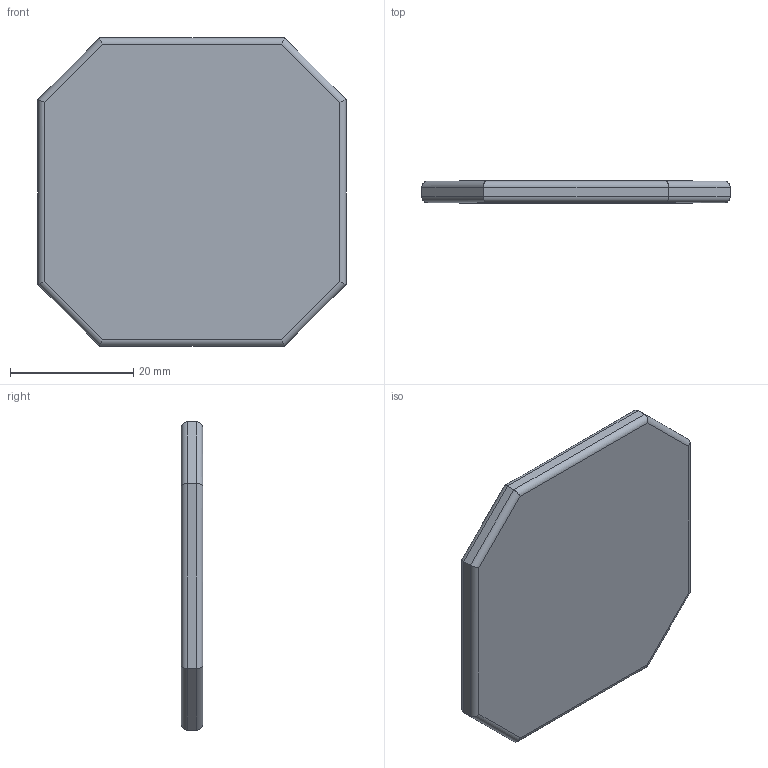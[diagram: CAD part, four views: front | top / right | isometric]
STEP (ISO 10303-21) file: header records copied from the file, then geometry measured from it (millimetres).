
FILE_DESCRIPTION(/* description */ (''),/* implementation_level */ '2;1');
FILE_NAME(/* name */ '//eli-nas/backup/3D Print/Werewolf Tokens/15.step',/* time_stamp */ '2022-02-09T18:07:59-06:00',/* author */ (''),/* organization */ (''),/* preprocessor_version */ 'ST-DEVELOPER v18.1',/* originating_system */ 'Autodesk Translation Framework v10.13.0.1454',/* authorisation */ '');
FILE_SCHEMA (('AUTOMOTIVE_DESIGN { 1 0 10303 214 3 1 1 }'));
Length unit declared in the file: millimetre
Products named in the file (1): Untitled
Bounding box: 50 x 3.5 x 50 mm (x, y, z)
Volume: 6483.9 mm3; surface area: 7437.8 mm2
Topology: 4 solids, 4 shells, 79 faces, 193 edges, 126 vertices
Faces by surface type: plane 40, cylinder 20, bspline 19
Full cylindrical faces by diameter (mm): 5.1 x4
Entity records: 2525 total; most frequent: CARTESIAN_POINT 722, ORIENTED_EDGE 386, DIRECTION 301, EDGE_CURVE 193, LINE 131, VECTOR 131, VERTEX_POINT 126, EDGE_LOOP 85
